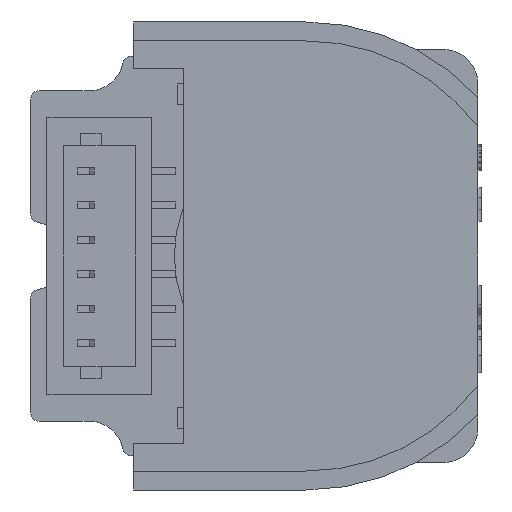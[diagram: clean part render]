
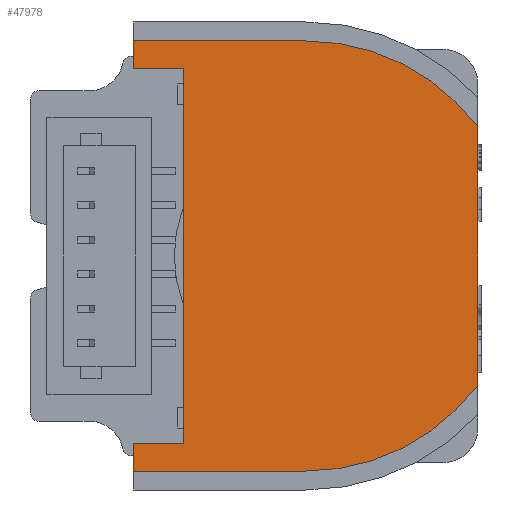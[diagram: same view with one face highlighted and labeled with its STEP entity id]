
A CAD part, left-side view. The second image highlights one B-rep face of the part: STEP entity #47978.
In plain terms, the highlighted planar face has unit normal (-1, 0, 0).
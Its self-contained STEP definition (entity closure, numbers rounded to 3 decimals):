
#1042 = CARTESIAN_POINT ( 'NONE',  ( -23., 3.55, 5.45 ) ) ;
#2569 = DIRECTION ( 'NONE',  ( 0., 0., -1. ) ) ;
#7046 = VERTEX_POINT ( 'NONE', #82061 ) ;
#8744 = EDGE_LOOP ( 'NONE', ( #27316, #120201, #91865, #18735, #96362, #54204, #82938, #18690, #18412, #113518 ) ) ;
#12006 = CARTESIAN_POINT ( 'NONE',  ( -23., 5., 6. ) ) ;
#14709 = VERTEX_POINT ( 'NONE', #33270 ) ;
#18412 = ORIENTED_EDGE ( 'NONE', *, *, #110253, .T. ) ;
#18690 = ORIENTED_EDGE ( 'NONE', *, *, #70557, .T. ) ;
#18735 = ORIENTED_EDGE ( 'NONE', *, *, #117075, .T. ) ;
#19838 = CARTESIAN_POINT ( 'NONE',  ( -23., 3.55, -5.45 ) ) ;
#21424 = DIRECTION ( 'NONE',  ( 0., 0., -1. ) ) ;
#21448 = EDGE_CURVE ( 'NONE', #149315, #137914, #35779, .T. ) ;
#24671 = DIRECTION ( 'NONE',  ( 0., 0., 1. ) ) ;
#27316 = ORIENTED_EDGE ( 'NONE', *, *, #84273, .T. ) ;
#28252 = VERTEX_POINT ( 'NONE', #52795 ) ;
#28518 = EDGE_CURVE ( 'NONE', #14709, #40165, #147013, .T. ) ;
#31293 = PLANE ( 'NONE',  #143422 ) ;
#33270 = CARTESIAN_POINT ( 'NONE',  ( -23., 3.55, 5.45 ) ) ;
#33976 = LINE ( 'NONE', #12006, #47496 ) ;
#35148 = CARTESIAN_POINT ( 'NONE',  ( -23., 5., -6.25 ) ) ;
#35779 = LINE ( 'NONE', #118235, #37911 ) ;
#37911 = VECTOR ( 'NONE', #58467, 1000. ) ;
#38607 = LINE ( 'NONE', #49529, #82896 ) ;
#38729 = CARTESIAN_POINT ( 'NONE',  ( -23., 3.55, -5.45 ) ) ;
#40165 = VERTEX_POINT ( 'NONE', #38729 ) ;
#40332 = VECTOR ( 'NONE', #153107, 1000. ) ;
#43018 = DIRECTION ( 'NONE',  ( 0., 0., 1. ) ) ;
#47151 = DIRECTION ( 'NONE',  ( 0., -1., 0. ) ) ;
#47496 = VECTOR ( 'NONE', #21424, 1000. ) ;
#47911 = LINE ( 'NONE', #95896, #110300 ) ;
#47978 = ADVANCED_FACE ( 'NONE', ( #64260 ), #31293, .T. ) ;
#48241 = VECTOR ( 'NONE', #150255, 1000. ) ;
#49529 = CARTESIAN_POINT ( 'NONE',  ( -23., 5., 6. ) ) ;
#52570 = VECTOR ( 'NONE', #86382, 1000. ) ;
#52795 = CARTESIAN_POINT ( 'NONE',  ( -23., 5., 6.25 ) ) ;
#52807 = CARTESIAN_POINT ( 'NONE',  ( -23., -5., -3.75 ) ) ;
#54204 = ORIENTED_EDGE ( 'NONE', *, *, #142488, .T. ) ;
#56740 = CARTESIAN_POINT ( 'NONE',  ( -23., 0., 6.25 ) ) ;
#58467 = DIRECTION ( 'NONE',  ( 0., -1., 0. ) ) ;
#64260 = FACE_OUTER_BOUND ( 'NONE', #8744, .T. ) ;
#68086 = CARTESIAN_POINT ( 'NONE',  ( -23., 0., -6.25 ) ) ;
#70557 = EDGE_CURVE ( 'NONE', #7046, #133680, #146447, .T. ) ;
#72248 = CARTESIAN_POINT ( 'NONE',  ( -23., -5., 3.473 ) ) ;
#75212 = EDGE_CURVE ( 'NONE', #40165, #141936, #102296, .T. ) ;
#79989 = VERTEX_POINT ( 'NONE', #52807 ) ;
#81836 = AXIS2_PLACEMENT_3D ( 'NONE', #86650, #134549, #24671 ) ;
#82061 = CARTESIAN_POINT ( 'NONE',  ( -23., -5., 3.75 ) ) ;
#82896 = VECTOR ( 'NONE', #2569, 1000. ) ;
#82938 = ORIENTED_EDGE ( 'NONE', *, *, #102439, .T. ) ;
#84273 = EDGE_CURVE ( 'NONE', #110077, #14709, #47911, .T. ) ;
#86382 = DIRECTION ( 'NONE',  ( 0., 0., 1. ) ) ;
#86650 = CARTESIAN_POINT ( 'NONE',  ( -23., 0., 0. ) ) ;
#87266 = DIRECTION ( 'NONE',  ( 0., 0., -1. ) ) ;
#90975 = DIRECTION ( 'NONE',  ( -1., 0., 0. ) ) ;
#91865 = ORIENTED_EDGE ( 'NONE', *, *, #75212, .T. ) ;
#93700 = AXIS2_PLACEMENT_3D ( 'NONE', #144881, #94618, #133018 ) ;
#94618 = DIRECTION ( 'NONE',  ( -1., 0., 0. ) ) ;
#95896 = CARTESIAN_POINT ( 'NONE',  ( -23., 5., 5.45 ) ) ;
#96362 = ORIENTED_EDGE ( 'NONE', *, *, #21448, .T. ) ;
#102296 = LINE ( 'NONE', #19838, #48241 ) ;
#102439 = EDGE_CURVE ( 'NONE', #79989, #7046, #109992, .T. ) ;
#105163 = CARTESIAN_POINT ( 'NONE',  ( -23., 5., 6.25 ) ) ;
#109992 = LINE ( 'NONE', #72248, #52570 ) ;
#110077 = VERTEX_POINT ( 'NONE', #130406 ) ;
#110253 = EDGE_CURVE ( 'NONE', #133680, #28252, #129461, .T. ) ;
#110300 = VECTOR ( 'NONE', #47151, 1000. ) ;
#113518 = ORIENTED_EDGE ( 'NONE', *, *, #116876, .T. ) ;
#116520 = VECTOR ( 'NONE', #87266, 1000. ) ;
#116876 = EDGE_CURVE ( 'NONE', #28252, #110077, #33976, .T. ) ;
#117075 = EDGE_CURVE ( 'NONE', #141936, #149315, #38607, .T. ) ;
#118235 = CARTESIAN_POINT ( 'NONE',  ( -23., 0., -6.25 ) ) ;
#120201 = ORIENTED_EDGE ( 'NONE', *, *, #28518, .T. ) ;
#125544 = CARTESIAN_POINT ( 'NONE',  ( -23., 0., 0. ) ) ;
#129461 = LINE ( 'NONE', #105163, #40332 ) ;
#130406 = CARTESIAN_POINT ( 'NONE',  ( -23., 5., 5.45 ) ) ;
#133018 = DIRECTION ( 'NONE',  ( 0., 0., 1. ) ) ;
#133680 = VERTEX_POINT ( 'NONE', #56740 ) ;
#134549 = DIRECTION ( 'NONE',  ( -1., 0., 0. ) ) ;
#137914 = VERTEX_POINT ( 'NONE', #68086 ) ;
#141936 = VERTEX_POINT ( 'NONE', #145210 ) ;
#142488 = EDGE_CURVE ( 'NONE', #137914, #79989, #149628, .T. ) ;
#143422 = AXIS2_PLACEMENT_3D ( 'NONE', #125544, #90975, #43018 ) ;
#144881 = CARTESIAN_POINT ( 'NONE',  ( -23., 0., 0. ) ) ;
#145210 = CARTESIAN_POINT ( 'NONE',  ( -23., 5., -5.45 ) ) ;
#146447 = CIRCLE ( 'NONE', #93700, 6.25 ) ;
#147013 = LINE ( 'NONE', #1042, #116520 ) ;
#149315 = VERTEX_POINT ( 'NONE', #35148 ) ;
#149628 = CIRCLE ( 'NONE', #81836, 6.25 ) ;
#150255 = DIRECTION ( 'NONE',  ( 0., 1., 0. ) ) ;
#153107 = DIRECTION ( 'NONE',  ( 0., 1., 0. ) ) ;
